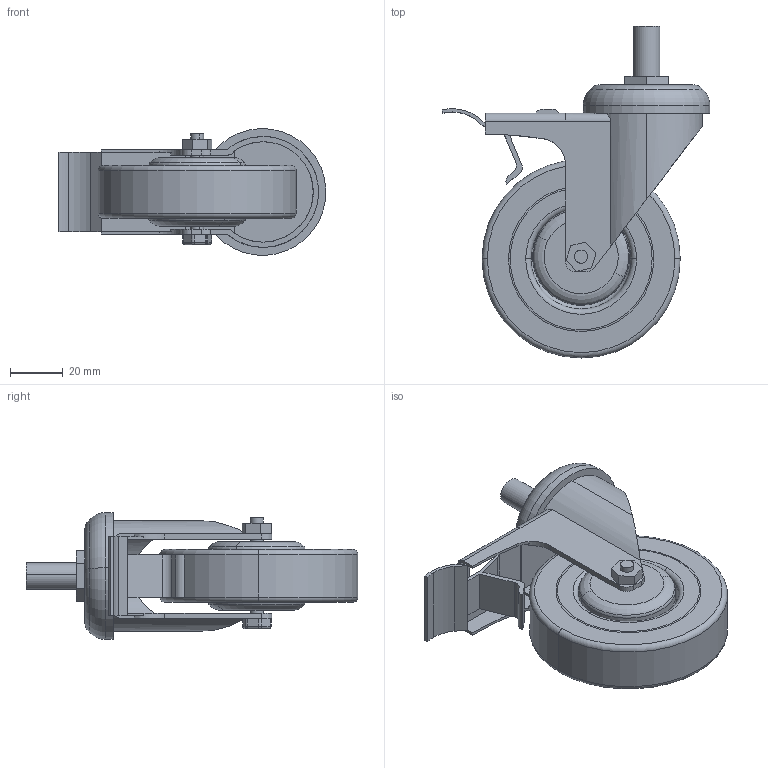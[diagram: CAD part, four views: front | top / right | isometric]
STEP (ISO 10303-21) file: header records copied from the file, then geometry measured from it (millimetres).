
FILE_DESCRIPTION (( 'STEP AP203' ), '1' );
FILE_NAME ('RSI937075.STEP', '2016-04-03T09:55:23', ( '' ), ( '' ), 'SwSTEP 2.0', 'SolidWorks 2014', '' );
FILE_SCHEMA (( 'CONFIG_CONTROL_DESIGN' ));
Length unit declared in the file: millimetre
Products named in the file (8): 搿錓; 闃膼瘔; ãàéêà; ïîäøèáíèê; RSI937075; 膰錼勷; öèëèíäð; çàùèòû
Assembly tree (8 placements, depth 2):
  RSI937075
    膰錼勷
    öèëèíäð
    çàùèòû  x2
    搿錓
    闃膼瘔
    ãàéêà
    ïîäøèáíèê
Bounding box: 101.3 x 125.62 x 47.95 mm (x, y, z)
Volume: 105072.7 mm3; surface area: 47866.1 mm2
Topology: 10 solids, 10 shells, 218 faces, 514 edges, 322 vertices
Faces by surface type: plane 89, cylinder 82, torus 40, sphere 7
Entity records: 6751 total; most frequent: DIRECTION 1105, CARTESIAN_POINT 1044, ORIENTED_EDGE 952, EDGE_CURVE 476, AXIS2_PLACEMENT_3D 427, VERTEX_POINT 300, LINE 251, VECTOR 251
